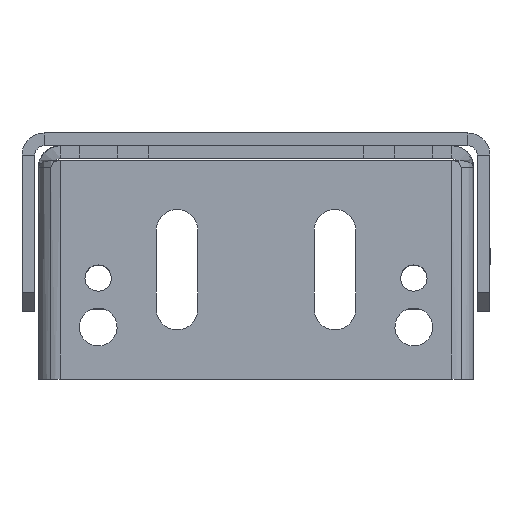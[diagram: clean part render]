
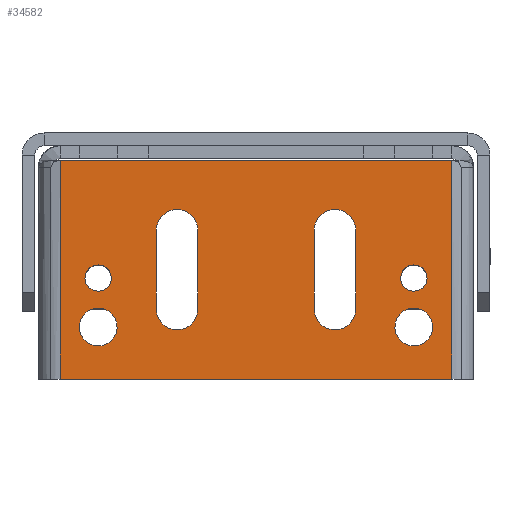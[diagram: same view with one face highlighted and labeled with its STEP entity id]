
A CAD part, left-side view. The second image highlights one B-rep face of the part: STEP entity #34582.
In plain terms, the highlighted planar face has unit normal (-1, 0, 0) as drawn and (0, 0, 1) by its records, which use the part's own axes.
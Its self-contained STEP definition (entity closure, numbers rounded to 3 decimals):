
#34582=ADVANCED_FACE('',(#65978,#65980,#65982,#65984,#65986,#65988,#65990),#65992,
.F.);
#65978=FACE_BOUND('',#65979,.T.);
#65979=EDGE_LOOP('',(#88505,#88506,#88507,#88508));
#65980=FACE_BOUND('',#65981,.T.);
#65981=EDGE_LOOP('',(#88509,#88510,#88511,#88512));
#65982=FACE_BOUND('',#65983,.T.);
#65983=EDGE_LOOP('',(#88513,#88514,#88515,#88516));
#65984=FACE_BOUND('',#65985,.T.);
#65985=EDGE_LOOP('',(#88517));
#65986=FACE_BOUND('',#65987,.T.);
#65987=EDGE_LOOP('',(#88518));
#65988=FACE_BOUND('',#65989,.T.);
#65989=EDGE_LOOP('',(#88519));
#65990=FACE_BOUND('',#65991,.T.);
#65991=EDGE_LOOP('',(#88520));
#65992=PLANE('',#65993);
#65993=AXIS2_PLACEMENT_3D('',#65994,#65995,#65996);
#65994=CARTESIAN_POINT('',(18.5,34.5,0.));
#65995=DIRECTION('',(0.,0.,-1.));
#65996=DIRECTION('',(-1.,0.,0.));
#88505=ORIENTED_EDGE('',*,*,#99689,.F.);
#88506=ORIENTED_EDGE('',*,*,#99690,.T.);
#88507=ORIENTED_EDGE('',*,*,#99691,.T.);
#88508=ORIENTED_EDGE('',*,*,#99692,.F.);
#88509=ORIENTED_EDGE('',*,*,#99693,.F.);
#88510=ORIENTED_EDGE('',*,*,#99694,.F.);
#88511=ORIENTED_EDGE('',*,*,#99695,.F.);
#88512=ORIENTED_EDGE('',*,*,#99594,.F.);
#88513=ORIENTED_EDGE('',*,*,#99696,.F.);
#88514=ORIENTED_EDGE('',*,*,#99697,.F.);
#88515=ORIENTED_EDGE('',*,*,#99698,.F.);
#88516=ORIENTED_EDGE('',*,*,#99598,.F.);
#88517=ORIENTED_EDGE('',*,*,#99633,.F.);
#88518=ORIENTED_EDGE('',*,*,#99635,.F.);
#88519=ORIENTED_EDGE('',*,*,#99637,.F.);
#88520=ORIENTED_EDGE('',*,*,#99639,.F.);
#99594=EDGE_CURVE('',#118226,#118228,#118229,.T.);
#99598=EDGE_CURVE('',#118234,#118236,#118237,.T.);
#99633=EDGE_CURVE('',#118301,#118301,#118302,.T.);
#99635=EDGE_CURVE('',#118305,#118305,#118306,.T.);
#99637=EDGE_CURVE('',#118309,#118309,#118310,.T.);
#99639=EDGE_CURVE('',#118313,#118313,#118314,.T.);
#99689=EDGE_CURVE('',#118403,#118404,#118405,.T.);
#99690=EDGE_CURVE('',#118403,#118406,#118407,.T.);
#99691=EDGE_CURVE('',#118406,#118408,#118409,.T.);
#99692=EDGE_CURVE('',#118404,#118408,#118410,.T.);
#99693=EDGE_CURVE('',#118411,#118226,#118412,.T.);
#99694=EDGE_CURVE('',#118413,#118411,#118414,.T.);
#99695=EDGE_CURVE('',#118228,#118413,#118415,.T.);
#99696=EDGE_CURVE('',#118416,#118234,#118417,.T.);
#99697=EDGE_CURVE('',#118418,#118416,#118419,.T.);
#99698=EDGE_CURVE('',#118236,#118418,#118420,.T.);
#118226=VERTEX_POINT('',#162998);
#118228=VERTEX_POINT('',#163002);
#118229=CIRCLE('',#163003,3.3);
#118234=VERTEX_POINT('',#163016);
#118236=VERTEX_POINT('',#163020);
#118237=CIRCLE('',#163021,3.3);
#118301=VERTEX_POINT('',#163185);
#118302=CIRCLE('',#163186,2.1);
#118305=VERTEX_POINT('',#163195);
#118306=CIRCLE('',#163196,3.);
#118309=VERTEX_POINT('',#163205);
#118310=CIRCLE('',#163206,2.1);
#118313=VERTEX_POINT('',#163215);
#118314=CIRCLE('',#163216,3.);
#118403=VERTEX_POINT('',#163409);
#118404=VERTEX_POINT('',#163410);
#118405=LINE('',#163411,#163412);
#118406=VERTEX_POINT('',#163414);
#118407=LINE('',#163415,#163416);
#118408=VERTEX_POINT('',#163418);
#118409=LINE('',#163419,#163420);
#118410=LINE('',#163422,#163423);
#118411=VERTEX_POINT('',#163425);
#118412=LINE('',#163426,#163427);
#118413=VERTEX_POINT('',#163429);
#118414=CIRCLE('',#163430,3.3);
#118415=LINE('',#163434,#163435);
#118416=VERTEX_POINT('',#163437);
#118417=LINE('',#163438,#163439);
#118418=VERTEX_POINT('',#163441);
#118419=CIRCLE('',#163442,3.3);
#118420=LINE('',#163446,#163447);
#162998=CARTESIAN_POINT('',(5.073,-15.8,0.));
#163002=CARTESIAN_POINT('',(5.073,-9.2,0.));
#163003=AXIS2_PLACEMENT_3D('',#163004,#163005,#163006);
#163004=CARTESIAN_POINT('',(5.073,-12.5,0.));
#163005=DIRECTION('',(0.,0.,1.));
#163006=DIRECTION('',(0.,-1.,0.));
#163016=CARTESIAN_POINT('',(5.073,9.2,0.));
#163020=CARTESIAN_POINT('',(5.073,15.8,0.));
#163021=AXIS2_PLACEMENT_3D('',#163022,#163023,#163024);
#163022=CARTESIAN_POINT('',(5.073,12.5,0.));
#163023=DIRECTION('',(0.,0.,1.));
#163024=DIRECTION('',(0.,-1.,0.));
#163185=CARTESIAN_POINT('',(-0.4,-25.,0.));
#163186=AXIS2_PLACEMENT_3D('',#163187,#163188,#163189);
#163187=CARTESIAN_POINT('',(-2.5,-25.,0.));
#163188=DIRECTION('',(0.,0.,1.));
#163189=DIRECTION('',(-1.,0.,0.));
#163195=CARTESIAN_POINT('',(-7.25,-25.,0.));
#163196=AXIS2_PLACEMENT_3D('',#163197,#163198,#163199);
#163197=CARTESIAN_POINT('',(-10.25,-25.,0.));
#163198=DIRECTION('',(0.,0.,1.));
#163199=DIRECTION('',(-1.,0.,0.));
#163205=CARTESIAN_POINT('',(-0.4,25.,0.));
#163206=AXIS2_PLACEMENT_3D('',#163207,#163208,#163209);
#163207=CARTESIAN_POINT('',(-2.5,25.,0.));
#163208=DIRECTION('',(0.,0.,1.));
#163209=DIRECTION('',(-1.,0.,0.));
#163215=CARTESIAN_POINT('',(-7.25,25.,0.));
#163216=AXIS2_PLACEMENT_3D('',#163217,#163218,#163219);
#163217=CARTESIAN_POINT('',(-10.25,25.,0.));
#163218=DIRECTION('',(0.,0.,1.));
#163219=DIRECTION('',(-1.,0.,0.));
#163409=CARTESIAN_POINT('',(16.146,31.,0.));
#163410=CARTESIAN_POINT('',(16.146,-31.,0.));
#163411=CARTESIAN_POINT('',(16.146,31.,0.));
#163412=VECTOR('',#163413,1.);
#163413=DIRECTION('',(0.,-1.,0.));
#163414=CARTESIAN_POINT('',(-18.5,31.,0.));
#163415=CARTESIAN_POINT('',(16.146,31.,0.));
#163416=VECTOR('',#163417,1.);
#163417=DIRECTION('',(-1.,0.,0.));
#163418=CARTESIAN_POINT('',(-18.5,-31.,0.));
#163419=CARTESIAN_POINT('',(-18.5,31.,0.));
#163420=VECTOR('',#163421,1.);
#163421=DIRECTION('',(0.,-1.,0.));
#163422=CARTESIAN_POINT('',(16.146,-31.,0.));
#163423=VECTOR('',#163424,1.);
#163424=DIRECTION('',(-1.,0.,0.));
#163425=CARTESIAN_POINT('',(-7.427,-15.8,0.));
#163426=CARTESIAN_POINT('',(-7.427,-15.8,0.));
#163427=VECTOR('',#163428,1.);
#163428=DIRECTION('',(1.,0.,0.));
#163429=CARTESIAN_POINT('',(-7.427,-9.2,0.));
#163430=AXIS2_PLACEMENT_3D('',#163431,#163432,#163433);
#163431=CARTESIAN_POINT('',(-7.427,-12.5,0.));
#163432=DIRECTION('',(0.,0.,1.));
#163433=DIRECTION('',(0.,1.,0.));
#163434=CARTESIAN_POINT('',(5.073,-9.2,0.));
#163435=VECTOR('',#163436,1.);
#163436=DIRECTION('',(-1.,0.,0.));
#163437=CARTESIAN_POINT('',(-7.427,9.2,0.));
#163438=CARTESIAN_POINT('',(-7.427,9.2,0.));
#163439=VECTOR('',#163440,1.);
#163440=DIRECTION('',(1.,0.,0.));
#163441=CARTESIAN_POINT('',(-7.427,15.8,0.));
#163442=AXIS2_PLACEMENT_3D('',#163443,#163444,#163445);
#163443=CARTESIAN_POINT('',(-7.427,12.5,0.));
#163444=DIRECTION('',(0.,0.,1.));
#163445=DIRECTION('',(0.,1.,0.));
#163446=CARTESIAN_POINT('',(5.073,15.8,0.));
#163447=VECTOR('',#163448,1.);
#163448=DIRECTION('',(-1.,0.,0.));
